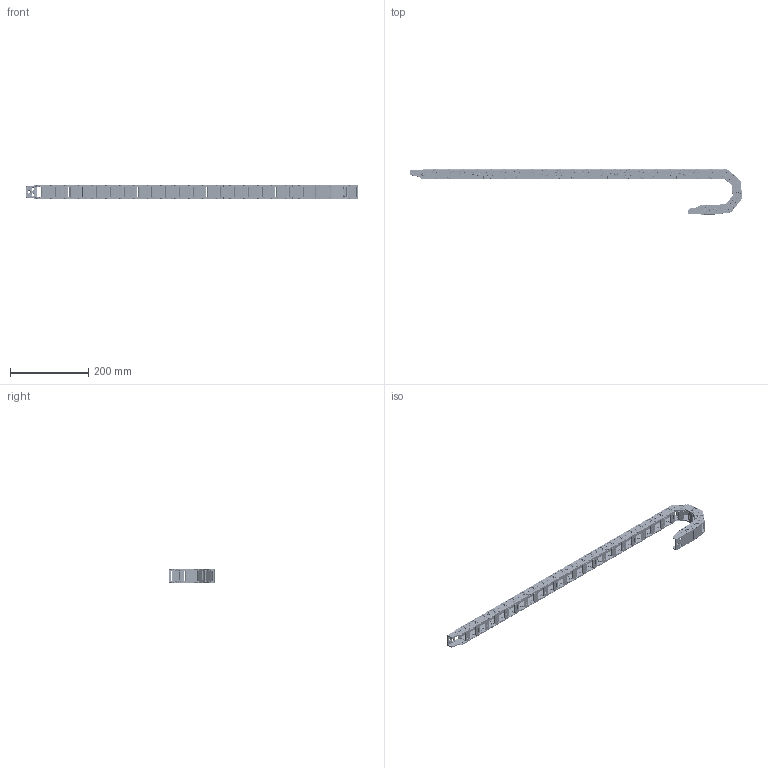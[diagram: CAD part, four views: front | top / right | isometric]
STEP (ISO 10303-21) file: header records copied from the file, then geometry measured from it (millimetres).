
FILE_DESCRIPTION(/* description */ (''),/* implementation_level */ '2;1');
FILE_NAME(/* name */ 'BF18x25R48.prt.stp',/* time_stamp */ '2022-11-17T15:14:50+08:00',/* author */ (''),/* organization */ (''),/* preprocessor_version */ 'ST-DEVELOPER v16',/* originating_system */ 'SIEMENS PLM Software NX 10.0',/* authorisation */ '');
FILE_SCHEMA (('CONFIG_CONTROL_DESIGN'));
Products named in the file (1): BF18x25R48
Bounding box: 847.47 x 114.94 x 36.7 mm (x, y, z)
Volume: 282143.3 mm3; surface area: 266790.4 mm2
Topology: 56 solids, 56 shells, 15026 faces, 40218 edges, 26247 vertices
Faces by surface type: plane 7616, bspline 3167, cylinder 2874, torus 834, extrusion 513, cone 18, sphere 4
Full cylindrical faces by diameter (mm): 4 x54
Entity records: 631477 total; most frequent: CARTESIAN_POINT 276664, ORIENTED_EDGE 79946, DIRECTION 62169, EDGE_CURVE 39973, VERTEX_POINT 26193, VECTOR 25459, LINE 24946, AXIS2_PLACEMENT_3D 18355
